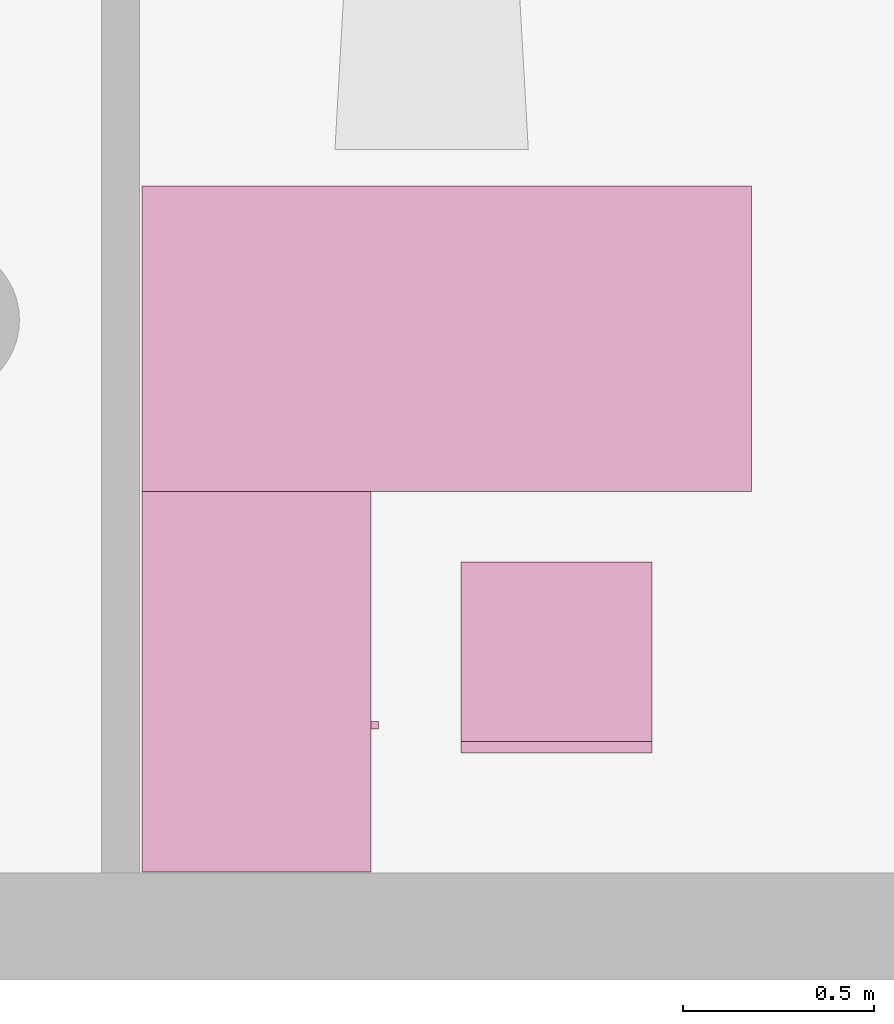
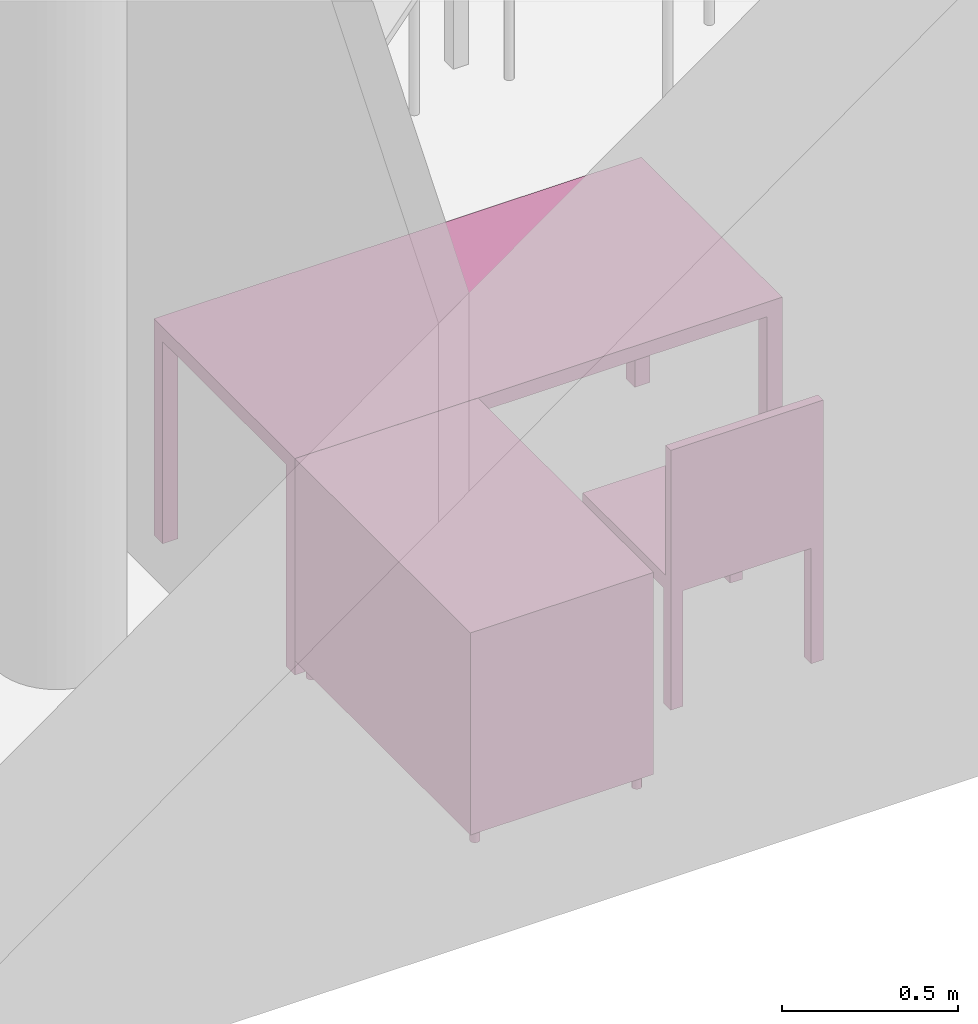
"""IFC4 building model written with IfcOpenShell, lengths in metres."""

from ifc_helpers import new_model, entity, si_unit, converted_unit, derived_unit, frame, origin, place, context, subcontext, project, spatial, faceted_brep, element, save


model = new_model("IFC4")

# Units and contexts
model_context = context("Model", 3, precision=1e-05, world=origin())
body_context = subcontext(model_context, "Body", "Model", "MODEL_VIEW")
ifc_project = project(units=[si_unit("LENGTHUNIT", "METRE"), si_unit("AREAUNIT", "SQUARE_METRE"), si_unit("VOLUMEUNIT", "CUBIC_METRE"), si_unit("MASSUNIT", "GRAM", prefix="KILO"), converted_unit("PLANEANGLEUNIT", "DEGREE", entity("IfcPlaneAngleMeasure", 0.0174532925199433), si_unit("PLANEANGLEUNIT", "RADIAN"), dimensions=[0, 0, 0, 0, 0, 0, 0]), derived_unit("THERMALTRANSMITTANCEUNIT", [(si_unit("POWERUNIT", "WATT"), 1), (si_unit("THERMODYNAMICTEMPERATUREUNIT", "KELVIN"), -1), (si_unit("LENGTHUNIT", "METRE"), -2)]), derived_unit("VOLUMETRICFLOWRATEUNIT", [(si_unit("LENGTHUNIT", "METRE"), 3), (converted_unit("TIMEUNIT", "hour", entity("IfcTimeMeasure", 3600.0), si_unit("TIMEUNIT", "SECOND"), dimensions=[0, 0, 1, 0, 0, 0, 0]), -1), (si_unit("LENGTHUNIT", "METRE"), -1)])], contexts=[model_context])

# Building, storeys
building_placement = place(None, origin())
building = spatial("IfcBuilding", under=ifc_project, at=building_placement, Name="HABITATGE PLURIFAMILIAR", CompositionType="ELEMENT")
storey_1_placement = place(building_placement, frame((0.0, 0.0, 6.25)))
storey_1 = spatial("IfcBuildingStorey", under=building, at=storey_1_placement, Name="PLANTA PRIMERA", CompositionType="ELEMENT", Elevation=6.25)
storey_2_placement = place(storey_1_placement, frame((0.0, 0.0, 3.35)))
storey_2 = spatial("IfcBuildingStorey", under=storey_1, at=storey_2_placement, Name="NOU", CompositionType="PARTIAL")

# Furniture
furniture_1_placement = place(storey_2_placement, frame((421.512867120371, 14.1196401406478, -3.35)))
element("IfcFurniture", 1, at=furniture_1_placement, inside=storey_2, Name="Taula 160X80_P1", context=body_context, shape_type="Brep", body=[
    faceted_brep([(1.546945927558, 0.750069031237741, 0.0), (1.596945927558, 0.750069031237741, 0.0), (1.596945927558, 0.800069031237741, 0.0), (1.546945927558, 0.800069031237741, 0.0), (1.546945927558, 0.800069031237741, 0.7), (1.596945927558, 0.800069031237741, 0.7), (1.596945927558, 0.750069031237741, 0.7), (1.546945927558, 0.750069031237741, 0.7)], [[[0, 1, 2, 3]], [[4, 5, 6, 7]], [[3, 4, 7, 0]], [[2, 5, 4, 3]], [[1, 6, 5, 2]], [[0, 7, 6, 1]]], orient=[[False], [False], [False], [False], [False], [False]]),
    faceted_brep([(1.546945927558, 0.0, 0.0), (1.596945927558, 0.0, 0.0), (1.596945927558, 0.05, 0.0), (1.546945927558, 0.05, 0.0), (1.546945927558, 0.05, 0.7), (1.596945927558, 0.05, 0.7), (1.596945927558, 0.0, 0.7), (1.546945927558, 0.0, 0.7)], [[[0, 1, 2, 3]], [[4, 5, 6, 7]], [[3, 4, 7, 0]], [[2, 5, 4, 3]], [[1, 6, 5, 2]], [[0, 7, 6, 1]]], orient=[[False], [False], [False], [False], [False], [False]]),
    faceted_brep([(0.0, 0.0, 0.7), (1.596945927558, 0.0, 0.7), (1.596945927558, 0.800069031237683, 0.7), (0.0, 0.800069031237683, 0.7), (0.0, 0.800069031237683, 0.75), (1.596945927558, 0.800069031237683, 0.75), (1.596945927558, 0.0, 0.75), (0.0, 0.0, 0.75)], [[[0, 1, 2, 3]], [[4, 5, 6, 7]], [[3, 4, 7, 0]], [[2, 5, 4, 3]], [[1, 6, 5, 2]], [[0, 7, 6, 1]]], orient=[[False], [False], [False], [False], [False], [False]]),
    faceted_brep([(0.0, 0.750069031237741, 0.0), (0.05, 0.750069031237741, 0.0), (0.05, 0.800069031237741, 0.0), (0.0, 0.800069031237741, 0.0), (0.0, 0.800069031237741, 0.7), (0.05, 0.800069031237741, 0.7), (0.05, 0.750069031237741, 0.7), (0.0, 0.750069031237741, 0.7)], [[[0, 1, 2, 3]], [[4, 5, 6, 7]], [[3, 4, 7, 0]], [[2, 5, 4, 3]], [[1, 6, 5, 2]], [[0, 7, 6, 1]]], orient=[[False], [False], [False], [False], [False], [False]]),
    faceted_brep([(0.0, 0.0, 0.0), (0.05, 0.0, 0.0), (0.05, 0.05, 0.0), (0.0, 0.05, 0.0), (0.0, 0.05, 0.7), (0.05, 0.05, 0.7), (0.05, 0.0, 0.7), (0.0, 0.0, 0.7)], [[[0, 1, 2, 3]], [[4, 5, 6, 7]], [[3, 4, 7, 0]], [[2, 5, 4, 3]], [[1, 6, 5, 2]], [[0, 7, 6, 1]]], orient=[[False], [False], [False], [False], [False], [False]]),
])
furniture_2_placement = place(storey_2_placement, frame((421.512867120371, 13.1236662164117, -3.35)))
element("IfcFurniture", 2, at=furniture_2_placement, inside=storey_2, Name="Taula 100X60_P1", context=body_context, shape_type="Brep", body=[
    faceted_brep([(0.0, 1.00000000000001, 0.05), (0.600000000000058, 1.00000000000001, 0.05), (0.600000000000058, 1.00000000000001, 0.07), (0.0, 1.00000000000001, 0.07), (0.600000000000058, 0.0, 0.05), (0.600000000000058, 0.0, 0.07), (0.0, 0.0, 0.05), (0.0, 0.0, 0.07)], [[[0, 1, 2, 3]], [[1, 4, 5, 2]], [[4, 6, 7, 5]], [[6, 0, 3, 7]], [[0, 6, 4, 1]], [[3, 2, 5, 7]]], orient=[[False], [False], [False], [False], [False], [False]]),
    faceted_brep([(0.580000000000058, 1.00000000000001, 0.35), (0.0, 1.00000000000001, 0.35), (0.0, 0.0, 0.35), (0.580000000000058, 0.0, 0.35), (0.0, 1.00000000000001, 0.37), (0.580000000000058, 1.00000000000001, 0.37), (0.580000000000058, 0.0, 0.37), (0.0, 0.0, 0.37)], [[[0, 1, 2, 3]], [[4, 5, 6, 7]], [[1, 0, 5, 4]], [[2, 1, 4, 7]], [[3, 2, 7, 6]], [[0, 3, 6, 5]]], orient=[[False], [False], [False], [False], [False], [False]]),
    faceted_brep([(0.580000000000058, 0.490000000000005, 0.75), (0.580000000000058, 0.490000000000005, 0.05), (0.600000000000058, 0.490000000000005, 0.05), (0.600000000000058, 0.490000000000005, 0.75), (0.580000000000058, 0.0, 0.05), (0.600000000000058, 0.0, 0.05), (0.580000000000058, 0.0, 0.75), (0.600000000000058, 0.0, 0.75)], [[[0, 1, 2, 3]], [[1, 4, 5, 2]], [[4, 6, 7, 5]], [[6, 0, 3, 7]], [[0, 6, 4, 1]], [[3, 2, 5, 7]]], orient=[[False], [False], [False], [False], [False], [False]]),
    faceted_brep([(0.0, 0.980000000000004, 0.75), (0.0, 0.980000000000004, 0.0499999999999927), (0.0, 1.0, 0.0499999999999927), (0.0, 1.0, 0.75), (0.600000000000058, 0.980000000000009, 0.05), (0.600000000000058, 1.00000000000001, 0.05), (0.600000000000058, 0.980000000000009, 0.75), (0.600000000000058, 1.00000000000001, 0.75)], [[[0, 1, 2, 3]], [[1, 4, 5, 2]], [[4, 6, 7, 5]], [[6, 0, 3, 7]], [[0, 6, 4, 1]], [[3, 2, 5, 7]]], orient=[[False], [False], [False], [False], [False], [False]]),
    faceted_brep([(0.0, 0.470000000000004, 0.75), (0.0, 0.470000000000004, 0.0499999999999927), (0.0, 0.490000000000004, 0.0499999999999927), (0.0, 0.490000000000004, 0.75), (0.600000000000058, 0.470000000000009, 0.05), (0.600000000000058, 0.490000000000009, 0.05), (0.600000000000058, 0.470000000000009, 0.75), (0.600000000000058, 0.490000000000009, 0.75)], [[[0, 1, 2, 3]], [[1, 4, 5, 2]], [[4, 6, 7, 5]], [[6, 0, 3, 7]], [[0, 6, 4, 1]], [[3, 2, 5, 7]]], orient=[[False], [False], [False], [False], [False], [False]]),
    faceted_brep([(0.0, 0.47, 0.75000000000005), (0.0, 0.47, 0.0499999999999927), (0.0, 0.490000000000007, 0.0499999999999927), (0.0, 0.490000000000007, 0.75000000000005), (0.58, 0.469999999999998, 0.0499999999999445), (0.58, 0.490000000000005, 0.0499999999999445), (0.580000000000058, 0.469999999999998, 0.750000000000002), (0.580000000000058, 0.490000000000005, 0.750000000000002)], [[[0, 1, 2, 3]], [[1, 4, 5, 2]], [[4, 6, 7, 5]], [[6, 0, 3, 7]], [[0, 6, 4, 1]], [[3, 2, 5, 7]]], orient=[[False], [False], [False], [False], [False], [False]]),
    faceted_brep([(0.0, 0.0, 0.75), (0.0, 0.0, 0.0499999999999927), (0.0, 0.0200000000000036, 0.0499999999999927), (0.0, 0.0200000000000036, 0.75), (0.600000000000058, 0.0, 0.05), (0.600000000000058, 0.0200000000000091, 0.05), (0.600000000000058, 0.0, 0.75), (0.600000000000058, 0.0200000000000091, 0.75)], [[[0, 1, 2, 3]], [[1, 4, 5, 2]], [[4, 6, 7, 5]], [[6, 0, 3, 7]], [[0, 6, 4, 1]], [[3, 2, 5, 7]]], orient=[[False], [False], [False], [False], [False], [False]]),
    faceted_brep([(0.0, 1.00000000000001, 0.73), (0.600000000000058, 1.00000000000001, 0.73), (0.600000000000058, 1.00000000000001, 0.75), (0.0, 1.00000000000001, 0.75), (0.600000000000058, 0.0, 0.73), (0.600000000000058, 0.0, 0.75), (0.0, 0.0, 0.73), (0.0, 0.0, 0.75)], [[[0, 1, 2, 3]], [[1, 4, 5, 2]], [[4, 6, 7, 5]], [[6, 0, 3, 7]], [[0, 6, 4, 1]], [[3, 2, 5, 7]]], orient=[[False], [False], [False], [False], [False], [False]]),
    faceted_brep([(0.0, 0.980000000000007, 0.75), (0.0, 0.980000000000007, 0.05), (0.0200000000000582, 0.980000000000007, 0.05), (0.0200000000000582, 0.980000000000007, 0.75), (0.0, 0.0, 0.05), (0.0200000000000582, 0.0, 0.05), (0.0, 0.0, 0.75), (0.0200000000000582, 0.0, 0.75)], [[[0, 1, 2, 3]], [[1, 4, 5, 2]], [[4, 6, 7, 5]], [[6, 0, 3, 7]], [[0, 6, 4, 1]], [[3, 2, 5, 7]]], orient=[[False], [False], [False], [False], [False], [False]]),
    faceted_brep([(0.600000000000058, 0.374420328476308, 0.35), (0.620000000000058, 0.374420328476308, 0.35), (0.620000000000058, 0.394420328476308, 0.35), (0.600000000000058, 0.394420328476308, 0.35), (0.600000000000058, 0.394420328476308, 0.45), (0.620000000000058, 0.394420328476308, 0.45), (0.620000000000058, 0.374420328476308, 0.45), (0.600000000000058, 0.374420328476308, 0.45)], [[[0, 1, 2, 3]], [[4, 5, 6, 7]], [[3, 4, 7, 0]], [[2, 5, 4, 3]], [[1, 6, 5, 2]], [[0, 7, 6, 1]]], orient=[[False], [False], [False], [False], [False], [False]]),
    faceted_brep([(0.0361788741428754, 0.950063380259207, 0.0), (0.0387728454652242, 0.950290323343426, 0.0), (0.0412880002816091, 0.950964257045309, 0.0), (0.0436479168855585, 0.95206470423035, 0.0), (0.0457808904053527, 0.953558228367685, 0.0), (0.0476221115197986, 0.955399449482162, 0.0), (0.0491156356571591, 0.957532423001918, 0.0), (0.0502160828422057, 0.959892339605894, 0.0), (0.0508900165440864, 0.962407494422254, 0.0), (0.0511169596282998, 0.96500146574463, 0.0), (0.0508900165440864, 0.967595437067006, 0.0), (0.0502160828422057, 0.970110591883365, 0.0), (0.0491156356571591, 0.972470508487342, 0.0), (0.0476221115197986, 0.974603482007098, 0.0), (0.0457808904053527, 0.976444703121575, 0.0), (0.0436479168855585, 0.97793822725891, 0.0), (0.0412880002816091, 0.979038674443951, 0.0), (0.0387728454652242, 0.979712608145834, 0.0), (0.0361788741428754, 0.979939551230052, 0.0), (0.0335849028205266, 0.979712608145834, 0.0), (0.0310697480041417, 0.979038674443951, 0.0), (0.0287098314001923, 0.97793822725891, 0.0), (0.0265768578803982, 0.976444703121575, 0.0), (0.0247356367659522, 0.974603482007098, 0.0), (0.0232421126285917, 0.972470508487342, 0.0), (0.0221416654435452, 0.970110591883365, 0.0), (0.0214677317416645, 0.967595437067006, 0.0), (0.021240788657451, 0.96500146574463, 0.0), (0.0214677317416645, 0.962407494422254, 0.0), (0.0221416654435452, 0.959892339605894, 0.0), (0.0232421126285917, 0.957532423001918, 0.0), (0.0247356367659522, 0.955399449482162, 0.0), (0.0265768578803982, 0.953558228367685, 0.0), (0.0287098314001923, 0.95206470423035, 0.0), (0.0310697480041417, 0.950964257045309, 0.0), (0.0335849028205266, 0.950290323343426, 0.0), (0.0361788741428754, 0.950063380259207, 0.05), (0.0335849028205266, 0.950290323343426, 0.05), (0.0310697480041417, 0.950964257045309, 0.05), (0.0287098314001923, 0.95206470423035, 0.05), (0.0265768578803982, 0.953558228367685, 0.05), (0.0247356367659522, 0.955399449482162, 0.05), (0.0232421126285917, 0.957532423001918, 0.05), (0.0221416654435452, 0.959892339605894, 0.05), (0.0214677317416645, 0.962407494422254, 0.05), (0.021240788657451, 0.96500146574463, 0.05), (0.0214677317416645, 0.967595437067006, 0.05), (0.0221416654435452, 0.970110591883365, 0.05), (0.0232421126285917, 0.972470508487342, 0.05), (0.0247356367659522, 0.974603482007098, 0.05), (0.0265768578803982, 0.976444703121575, 0.05), (0.0287098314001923, 0.97793822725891, 0.05), (0.0310697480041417, 0.979038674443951, 0.05), (0.0335849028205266, 0.979712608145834, 0.05), (0.0361788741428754, 0.979939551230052, 0.05), (0.0387728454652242, 0.979712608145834, 0.05), (0.0412880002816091, 0.979038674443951, 0.05), (0.0436479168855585, 0.97793822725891, 0.05), (0.0457808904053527, 0.976444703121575, 0.05), (0.0476221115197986, 0.974603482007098, 0.05), (0.0491156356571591, 0.972470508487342, 0.05), (0.0502160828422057, 0.970110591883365, 0.05), (0.0508900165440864, 0.967595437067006, 0.05), (0.0511169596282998, 0.96500146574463, 0.05), (0.0508900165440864, 0.962407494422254, 0.05), (0.0502160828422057, 0.959892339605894, 0.05), (0.0491156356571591, 0.957532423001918, 0.05), (0.0476221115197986, 0.955399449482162, 0.05), (0.0457808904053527, 0.953558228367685, 0.05), (0.0436479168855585, 0.95206470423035, 0.05), (0.0412880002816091, 0.950964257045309, 0.05), (0.0387728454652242, 0.950290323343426, 0.05)], [[[0, 1, 2, 3, 4, 5, 6, 7, 8, 9, 10, 11, 12, 13, 14, 15, 16, 17, 18, 19, 20, 21, 22, 23, 24, 25, 26, 27, 28, 29, 30, 31, 32, 33, 34, 35]], [[36, 37, 38, 39, 40, 41, 42, 43, 44, 45, 46, 47, 48, 49, 50, 51, 52, 53, 54, 55, 56, 57, 58, 59, 60, 61, 62, 63, 64, 65, 66, 67, 68, 69, 70, 71]], [[1, 0, 36, 71]], [[2, 1, 71, 70]], [[3, 2, 70, 69]], [[4, 3, 69, 68]], [[5, 4, 68, 67]], [[6, 5, 67, 66]], [[7, 6, 66, 65]], [[8, 7, 65, 64]], [[9, 8, 64, 63]], [[10, 9, 63, 62]], [[11, 10, 62, 61]], [[12, 11, 61, 60]], [[13, 12, 60, 59]], [[14, 13, 59, 58]], [[15, 14, 58, 57]], [[16, 15, 57, 56]], [[17, 16, 56, 55]], [[18, 17, 55, 54]], [[19, 18, 54, 53]], [[20, 19, 53, 52]], [[21, 20, 52, 51]], [[22, 21, 51, 50]], [[23, 22, 50, 49]], [[24, 23, 49, 48]], [[25, 24, 48, 47]], [[26, 25, 47, 46]], [[27, 26, 46, 45]], [[28, 27, 45, 44]], [[29, 28, 44, 43]], [[30, 29, 43, 42]], [[31, 30, 42, 41]], [[32, 31, 41, 40]], [[33, 32, 40, 39]], [[34, 33, 39, 38]], [[35, 34, 38, 37]], [[0, 35, 37, 36]]], orient=[[False], [False], [False], [False], [False], [False], [False], [False], [False], [False], [False], [False], [False], [False], [False], [False], [False], [False], [False], [False], [False], [False], [False], [False], [False], [False], [False], [False], [False], [False], [False], [False], [False], [False], [False], [False], [False], [False]]),
    faceted_brep([(0.566178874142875, 0.950063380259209, 0.0), (0.568772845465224, 0.950290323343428, 0.0), (0.571288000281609, 0.950964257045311, 0.0), (0.573647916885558, 0.952064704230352, 0.0), (0.575780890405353, 0.953558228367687, 0.0), (0.577622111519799, 0.955399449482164, 0.0), (0.579115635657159, 0.95753242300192, 0.0), (0.580216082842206, 0.959892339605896, 0.0), (0.580890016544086, 0.962407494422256, 0.0), (0.5811169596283, 0.965001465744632, 0.0), (0.580890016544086, 0.967595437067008, 0.0), (0.580216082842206, 0.970110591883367, 0.0), (0.579115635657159, 0.972470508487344, 0.0), (0.577622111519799, 0.9746034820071, 0.0), (0.575780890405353, 0.976444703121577, 0.0), (0.573647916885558, 0.977938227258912, 0.0), (0.571288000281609, 0.979038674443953, 0.0), (0.568772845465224, 0.979712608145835, 0.0), (0.566178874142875, 0.979939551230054, 0.0), (0.563584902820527, 0.979712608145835, 0.0), (0.561069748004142, 0.979038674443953, 0.0), (0.558709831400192, 0.977938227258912, 0.0), (0.556576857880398, 0.976444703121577, 0.0), (0.554735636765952, 0.9746034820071, 0.0), (0.553242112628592, 0.972470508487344, 0.0), (0.552141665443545, 0.970110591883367, 0.0), (0.551467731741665, 0.967595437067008, 0.0), (0.551240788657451, 0.965001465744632, 0.0), (0.551467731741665, 0.962407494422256, 0.0), (0.552141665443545, 0.959892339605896, 0.0), (0.553242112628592, 0.95753242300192, 0.0), (0.554735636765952, 0.955399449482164, 0.0), (0.556576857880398, 0.953558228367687, 0.0), (0.558709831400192, 0.952064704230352, 0.0), (0.561069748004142, 0.950964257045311, 0.0), (0.563584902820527, 0.950290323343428, 0.0), (0.566178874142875, 0.950063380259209, 0.05), (0.563584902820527, 0.950290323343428, 0.05), (0.561069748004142, 0.950964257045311, 0.05), (0.558709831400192, 0.952064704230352, 0.05), (0.556576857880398, 0.953558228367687, 0.05), (0.554735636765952, 0.955399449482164, 0.05), (0.553242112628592, 0.95753242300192, 0.05), (0.552141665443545, 0.959892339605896, 0.05), (0.551467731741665, 0.962407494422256, 0.05), (0.551240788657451, 0.965001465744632, 0.05), (0.551467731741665, 0.967595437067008, 0.05), (0.552141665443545, 0.970110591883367, 0.05), (0.553242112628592, 0.972470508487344, 0.05), (0.554735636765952, 0.9746034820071, 0.05), (0.556576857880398, 0.976444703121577, 0.05), (0.558709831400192, 0.977938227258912, 0.05), (0.561069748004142, 0.979038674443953, 0.05), (0.563584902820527, 0.979712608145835, 0.05), (0.566178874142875, 0.979939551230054, 0.05), (0.568772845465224, 0.979712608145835, 0.05), (0.571288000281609, 0.979038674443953, 0.05), (0.573647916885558, 0.977938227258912, 0.05), (0.575780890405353, 0.976444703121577, 0.05), (0.577622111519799, 0.9746034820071, 0.05), (0.579115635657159, 0.972470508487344, 0.05), (0.580216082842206, 0.970110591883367, 0.05), (0.580890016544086, 0.967595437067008, 0.05), (0.5811169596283, 0.965001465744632, 0.05), (0.580890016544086, 0.962407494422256, 0.05), (0.580216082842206, 0.959892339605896, 0.05), (0.579115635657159, 0.95753242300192, 0.05), (0.577622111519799, 0.955399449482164, 0.05), (0.575780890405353, 0.953558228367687, 0.05), (0.573647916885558, 0.952064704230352, 0.05), (0.571288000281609, 0.950964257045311, 0.05), (0.568772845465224, 0.950290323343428, 0.05)], [[[0, 1, 2, 3, 4, 5, 6, 7, 8, 9, 10, 11, 12, 13, 14, 15, 16, 17, 18, 19, 20, 21, 22, 23, 24, 25, 26, 27, 28, 29, 30, 31, 32, 33, 34, 35]], [[36, 37, 38, 39, 40, 41, 42, 43, 44, 45, 46, 47, 48, 49, 50, 51, 52, 53, 54, 55, 56, 57, 58, 59, 60, 61, 62, 63, 64, 65, 66, 67, 68, 69, 70, 71]], [[1, 0, 36, 71]], [[2, 1, 71, 70]], [[3, 2, 70, 69]], [[4, 3, 69, 68]], [[5, 4, 68, 67]], [[6, 5, 67, 66]], [[7, 6, 66, 65]], [[8, 7, 65, 64]], [[9, 8, 64, 63]], [[10, 9, 63, 62]], [[11, 10, 62, 61]], [[12, 11, 61, 60]], [[13, 12, 60, 59]], [[14, 13, 59, 58]], [[15, 14, 58, 57]], [[16, 15, 57, 56]], [[17, 16, 56, 55]], [[18, 17, 55, 54]], [[19, 18, 54, 53]], [[20, 19, 53, 52]], [[21, 20, 52, 51]], [[22, 21, 51, 50]], [[23, 22, 50, 49]], [[24, 23, 49, 48]], [[25, 24, 48, 47]], [[26, 25, 47, 46]], [[27, 26, 46, 45]], [[28, 27, 45, 44]], [[29, 28, 44, 43]], [[30, 29, 43, 42]], [[31, 30, 42, 41]], [[32, 31, 41, 40]], [[33, 32, 40, 39]], [[34, 33, 39, 38]], [[35, 34, 38, 37]], [[0, 35, 37, 36]]], orient=[[False], [False], [False], [False], [False], [False], [False], [False], [False], [False], [False], [False], [False], [False], [False], [False], [False], [False], [False], [False], [False], [False], [False], [False], [False], [False], [False], [False], [False], [False], [False], [False], [False], [False], [False], [False], [False], [False]]),
    faceted_brep([(0.565, 0.0200170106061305, 0.0), (0.567593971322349, 0.0202439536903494, 0.0), (0.570109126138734, 0.0209178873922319, 0.0), (0.572469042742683, 0.022018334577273, 0.0), (0.574602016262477, 0.023511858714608, 0.0), (0.576443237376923, 0.0253530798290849, 0.0), (0.577936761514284, 0.0274860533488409, 0.0), (0.57903720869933, 0.0298459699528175, 0.0), (0.579711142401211, 0.032361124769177, 0.0), (0.579938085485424, 0.0349550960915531, 0.0), (0.579711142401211, 0.0375490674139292, 0.0), (0.57903720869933, 0.0400642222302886, 0.0), (0.577936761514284, 0.0424241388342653, 0.0), (0.576443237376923, 0.0445571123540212, 0.0), (0.574602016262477, 0.0463983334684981, 0.0), (0.572469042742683, 0.0478918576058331, 0.0), (0.570109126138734, 0.0489923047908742, 0.0), (0.567593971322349, 0.0496662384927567, 0.0), (0.565, 0.0498931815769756, 0.0), (0.562406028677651, 0.0496662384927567, 0.0), (0.559890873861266, 0.0489923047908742, 0.0), (0.557530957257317, 0.0478918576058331, 0.0), (0.555397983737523, 0.0463983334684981, 0.0), (0.553556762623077, 0.0445571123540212, 0.0), (0.552063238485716, 0.0424241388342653, 0.0), (0.55096279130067, 0.0400642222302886, 0.0), (0.550288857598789, 0.0375490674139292, 0.0), (0.550061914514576, 0.0349550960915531, 0.0), (0.550288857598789, 0.032361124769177, 0.0), (0.55096279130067, 0.0298459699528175, 0.0), (0.552063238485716, 0.0274860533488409, 0.0), (0.553556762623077, 0.0253530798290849, 0.0), (0.555397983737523, 0.023511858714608, 0.0), (0.557530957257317, 0.022018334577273, 0.0), (0.559890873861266, 0.0209178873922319, 0.0), (0.562406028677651, 0.0202439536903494, 0.0), (0.565, 0.0200170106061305, 0.05), (0.562406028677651, 0.0202439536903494, 0.05), (0.559890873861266, 0.0209178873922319, 0.05), (0.557530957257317, 0.022018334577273, 0.05), (0.555397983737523, 0.023511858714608, 0.05), (0.553556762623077, 0.0253530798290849, 0.05), (0.552063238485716, 0.0274860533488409, 0.05), (0.55096279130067, 0.0298459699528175, 0.05), (0.550288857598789, 0.032361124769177, 0.05), (0.550061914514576, 0.0349550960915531, 0.05), (0.550288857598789, 0.0375490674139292, 0.05), (0.55096279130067, 0.0400642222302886, 0.05), (0.552063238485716, 0.0424241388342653, 0.05), (0.553556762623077, 0.0445571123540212, 0.05), (0.555397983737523, 0.0463983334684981, 0.05), (0.557530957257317, 0.0478918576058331, 0.05), (0.559890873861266, 0.0489923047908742, 0.05), (0.562406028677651, 0.0496662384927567, 0.05), (0.565, 0.0498931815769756, 0.05), (0.567593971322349, 0.0496662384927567, 0.05), (0.570109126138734, 0.0489923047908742, 0.05), (0.572469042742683, 0.0478918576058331, 0.05), (0.574602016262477, 0.0463983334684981, 0.05), (0.576443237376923, 0.0445571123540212, 0.05), (0.577936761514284, 0.0424241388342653, 0.05), (0.57903720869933, 0.0400642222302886, 0.05), (0.579711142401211, 0.0375490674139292, 0.05), (0.579938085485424, 0.0349550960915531, 0.05), (0.579711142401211, 0.032361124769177, 0.05), (0.57903720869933, 0.0298459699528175, 0.05), (0.577936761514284, 0.0274860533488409, 0.05), (0.576443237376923, 0.0253530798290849, 0.05), (0.574602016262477, 0.023511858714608, 0.05), (0.572469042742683, 0.022018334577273, 0.05), (0.570109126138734, 0.0209178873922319, 0.05), (0.567593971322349, 0.0202439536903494, 0.05)], [[[0, 1, 2, 3, 4, 5, 6, 7, 8, 9, 10, 11, 12, 13, 14, 15, 16, 17, 18, 19, 20, 21, 22, 23, 24, 25, 26, 27, 28, 29, 30, 31, 32, 33, 34, 35]], [[36, 37, 38, 39, 40, 41, 42, 43, 44, 45, 46, 47, 48, 49, 50, 51, 52, 53, 54, 55, 56, 57, 58, 59, 60, 61, 62, 63, 64, 65, 66, 67, 68, 69, 70, 71]], [[1, 0, 36, 71]], [[2, 1, 71, 70]], [[3, 2, 70, 69]], [[4, 3, 69, 68]], [[5, 4, 68, 67]], [[6, 5, 67, 66]], [[7, 6, 66, 65]], [[8, 7, 65, 64]], [[9, 8, 64, 63]], [[10, 9, 63, 62]], [[11, 10, 62, 61]], [[12, 11, 61, 60]], [[13, 12, 60, 59]], [[14, 13, 59, 58]], [[15, 14, 58, 57]], [[16, 15, 57, 56]], [[17, 16, 56, 55]], [[18, 17, 55, 54]], [[19, 18, 54, 53]], [[20, 19, 53, 52]], [[21, 20, 52, 51]], [[22, 21, 51, 50]], [[23, 22, 50, 49]], [[24, 23, 49, 48]], [[25, 24, 48, 47]], [[26, 25, 47, 46]], [[27, 26, 46, 45]], [[28, 27, 45, 44]], [[29, 28, 44, 43]], [[30, 29, 43, 42]], [[31, 30, 42, 41]], [[32, 31, 41, 40]], [[33, 32, 40, 39]], [[34, 33, 39, 38]], [[35, 34, 38, 37]], [[0, 35, 37, 36]]], orient=[[False], [False], [False], [False], [False], [False], [False], [False], [False], [False], [False], [False], [False], [False], [False], [False], [False], [False], [False], [False], [False], [False], [False], [False], [False], [False], [False], [False], [False], [False], [False], [False], [False], [False], [False], [False], [False], [False]]),
    faceted_brep([(0.0349662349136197, 0.0203520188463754, 0.0), (0.0375602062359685, 0.0205789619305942, 0.0), (0.0400753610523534, 0.0212528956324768, 0.0), (0.0424352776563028, 0.0223533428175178, 0.0), (0.044568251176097, 0.0238468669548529, 0.0), (0.0464094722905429, 0.0256880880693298, 0.0), (0.0479029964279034, 0.0278210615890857, 0.0), (0.0490034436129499, 0.0301809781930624, 0.0), (0.0496773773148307, 0.0326961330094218, 0.0), (0.0499043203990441, 0.0352901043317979, 0.0), (0.0496773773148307, 0.037884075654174, 0.0), (0.0490034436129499, 0.0403992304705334, 0.0), (0.0479029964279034, 0.0427591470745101, 0.0), (0.0464094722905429, 0.0448921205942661, 0.0), (0.044568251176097, 0.046733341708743, 0.0), (0.0424352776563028, 0.048226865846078, 0.0), (0.0400753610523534, 0.049327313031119, 0.0), (0.0375602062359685, 0.0500012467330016, 0.0), (0.0349662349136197, 0.0502281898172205, 0.0), (0.0323722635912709, 0.0500012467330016, 0.0), (0.029857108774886, 0.049327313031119, 0.0), (0.0274971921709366, 0.048226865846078, 0.0), (0.0253642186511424, 0.046733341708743, 0.0), (0.0235229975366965, 0.0448921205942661, 0.0), (0.022029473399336, 0.0427591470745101, 0.0), (0.0209290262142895, 0.0403992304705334, 0.0), (0.0202550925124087, 0.037884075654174, 0.0), (0.0200281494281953, 0.0352901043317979, 0.0), (0.0202550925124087, 0.0326961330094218, 0.0), (0.0209290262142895, 0.0301809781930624, 0.0), (0.022029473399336, 0.0278210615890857, 0.0), (0.0235229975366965, 0.0256880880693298, 0.0), (0.0253642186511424, 0.0238468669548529, 0.0), (0.0274971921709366, 0.0223533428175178, 0.0), (0.029857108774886, 0.0212528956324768, 0.0), (0.0323722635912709, 0.0205789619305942, 0.0), (0.0349662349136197, 0.0203520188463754, 0.05), (0.0323722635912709, 0.0205789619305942, 0.05), (0.029857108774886, 0.0212528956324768, 0.05), (0.0274971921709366, 0.0223533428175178, 0.05), (0.0253642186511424, 0.0238468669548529, 0.05), (0.0235229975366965, 0.0256880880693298, 0.05), (0.022029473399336, 0.0278210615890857, 0.05), (0.0209290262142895, 0.0301809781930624, 0.05), (0.0202550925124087, 0.0326961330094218, 0.05), (0.0200281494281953, 0.0352901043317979, 0.05), (0.0202550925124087, 0.037884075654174, 0.05), (0.0209290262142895, 0.0403992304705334, 0.05), (0.022029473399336, 0.0427591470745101, 0.05), (0.0235229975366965, 0.0448921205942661, 0.05), (0.0253642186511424, 0.046733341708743, 0.05), (0.0274971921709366, 0.048226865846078, 0.05), (0.029857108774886, 0.049327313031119, 0.05), (0.0323722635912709, 0.0500012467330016, 0.05), (0.0349662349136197, 0.0502281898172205, 0.05), (0.0375602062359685, 0.0500012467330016, 0.05), (0.0400753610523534, 0.049327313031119, 0.05), (0.0424352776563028, 0.048226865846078, 0.05), (0.044568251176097, 0.046733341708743, 0.05), (0.0464094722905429, 0.0448921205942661, 0.05), (0.0479029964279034, 0.0427591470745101, 0.05), (0.0490034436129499, 0.0403992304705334, 0.05), (0.0496773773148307, 0.037884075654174, 0.05), (0.0499043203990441, 0.0352901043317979, 0.05), (0.0496773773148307, 0.0326961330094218, 0.05), (0.0490034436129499, 0.0301809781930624, 0.05), (0.0479029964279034, 0.0278210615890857, 0.05), (0.0464094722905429, 0.0256880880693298, 0.05), (0.044568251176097, 0.0238468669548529, 0.05), (0.0424352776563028, 0.0223533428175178, 0.05), (0.0400753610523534, 0.0212528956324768, 0.05), (0.0375602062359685, 0.0205789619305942, 0.05)], [[[0, 1, 2, 3, 4, 5, 6, 7, 8, 9, 10, 11, 12, 13, 14, 15, 16, 17, 18, 19, 20, 21, 22, 23, 24, 25, 26, 27, 28, 29, 30, 31, 32, 33, 34, 35]], [[36, 37, 38, 39, 40, 41, 42, 43, 44, 45, 46, 47, 48, 49, 50, 51, 52, 53, 54, 55, 56, 57, 58, 59, 60, 61, 62, 63, 64, 65, 66, 67, 68, 69, 70, 71]], [[1, 0, 36, 71]], [[2, 1, 71, 70]], [[3, 2, 70, 69]], [[4, 3, 69, 68]], [[5, 4, 68, 67]], [[6, 5, 67, 66]], [[7, 6, 66, 65]], [[8, 7, 65, 64]], [[9, 8, 64, 63]], [[10, 9, 63, 62]], [[11, 10, 62, 61]], [[12, 11, 61, 60]], [[13, 12, 60, 59]], [[14, 13, 59, 58]], [[15, 14, 58, 57]], [[16, 15, 57, 56]], [[17, 16, 56, 55]], [[18, 17, 55, 54]], [[19, 18, 54, 53]], [[20, 19, 53, 52]], [[21, 20, 52, 51]], [[22, 21, 51, 50]], [[23, 22, 50, 49]], [[24, 23, 49, 48]], [[25, 24, 48, 47]], [[26, 25, 47, 46]], [[27, 26, 46, 45]], [[28, 27, 45, 44]], [[29, 28, 44, 43]], [[30, 29, 43, 42]], [[31, 30, 42, 41]], [[32, 31, 41, 40]], [[33, 32, 40, 39]], [[34, 33, 39, 38]], [[35, 34, 38, 37]], [[0, 35, 37, 36]]], orient=[[False], [False], [False], [False], [False], [False], [False], [False], [False], [False], [False], [False], [False], [False], [False], [False], [False], [False], [False], [False], [False], [False], [False], [False], [False], [False], [False], [False], [False], [False], [False], [False], [False], [False], [False], [False], [False], [False]]),
])
furniture_3_placement = place(storey_2_placement, frame((422.349185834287, 13.4351798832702, -3.34942958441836)))
element("IfcFurniture", 3, at=furniture_3_placement, inside=storey_2, Name="Cadira d'Oficina_P1", context=body_context, shape_type="Brep", body=[
    faceted_brep([(0.5, 0.5, 0.4), (0.0, 0.5, 0.4), (0.0, 0.0, 0.4), (0.5, 0.0, 0.4), (0.5, 0.0, 0.45), (0.0, 0.0, 0.45), (0.0, 0.5, 0.45), (0.5, 0.5, 0.45)], [[[0, 1, 2, 3]], [[4, 5, 6, 7]], [[3, 4, 7, 0]], [[2, 5, 4, 3]], [[1, 6, 5, 2]], [[0, 7, 6, 1]]], orient=[[False], [False], [False], [False], [False], [False]]),
    faceted_brep([(0.0, 0.04, 0.0), (0.0, 0.0, 0.0), (0.04, 0.0, 0.0), (0.04, 0.04, 0.0), (0.04, 0.04, 0.4), (0.04, 0.0, 0.4), (0.0, 0.0, 0.4), (0.0, 0.04, 0.4)], [[[0, 1, 2, 3]], [[4, 5, 6, 7]], [[3, 4, 7, 0]], [[2, 5, 4, 3]], [[1, 6, 5, 2]], [[0, 7, 6, 1]]], orient=[[False], [False], [False], [False], [False], [False]]),
    faceted_brep([(0.0, 0.5, 0.0), (0.0, 0.46, 0.0), (0.04, 0.46, 0.0), (0.04, 0.5, 0.0), (0.04, 0.5, 0.4), (0.04, 0.46, 0.4), (0.0, 0.46, 0.4), (0.0, 0.5, 0.4)], [[[0, 1, 2, 3]], [[4, 5, 6, 7]], [[3, 4, 7, 0]], [[2, 5, 4, 3]], [[1, 6, 5, 2]], [[0, 7, 6, 1]]], orient=[[False], [False], [False], [False], [False], [False]]),
    faceted_brep([(0.46, 0.04, 0.0), (0.46, 0.0, 0.0), (0.5, 0.0, 0.0), (0.5, 0.04, 0.0), (0.5, 0.04, 0.4), (0.5, 0.0, 0.4), (0.46, 0.0, 0.4), (0.46, 0.04, 0.4)], [[[0, 1, 2, 3]], [[4, 5, 6, 7]], [[3, 4, 7, 0]], [[2, 5, 4, 3]], [[1, 6, 5, 2]], [[0, 7, 6, 1]]], orient=[[False], [False], [False], [False], [False], [False]]),
    faceted_brep([(0.46, 0.5, 0.0), (0.46, 0.46, 0.0), (0.5, 0.46, 0.0), (0.5, 0.5, 0.0), (0.5, 0.5, 0.4), (0.5, 0.46, 0.4), (0.46, 0.46, 0.4), (0.46, 0.5, 0.4)], [[[0, 1, 2, 3]], [[4, 5, 6, 7]], [[3, 4, 7, 0]], [[2, 5, 4, 3]], [[1, 6, 5, 2]], [[0, 7, 6, 1]]], orient=[[False], [False], [False], [False], [False], [False]]),
    faceted_brep([(0.0, 0.03, 0.45), (0.0, 0.0, 0.45), (0.5, 0.0, 0.45), (0.5, 0.03, 0.45), (0.5, 0.03, 0.9), (0.5, 0.0, 0.9), (0.0, 0.0, 0.9), (0.0, 0.03, 0.9)], [[[0, 1, 2, 3]], [[4, 5, 6, 7]], [[3, 4, 7, 0]], [[2, 5, 4, 3]], [[1, 6, 5, 2]], [[0, 7, 6, 1]]], orient=[[False], [False], [False], [False], [False], [False]]),
])

save(model, "model.ifc")
